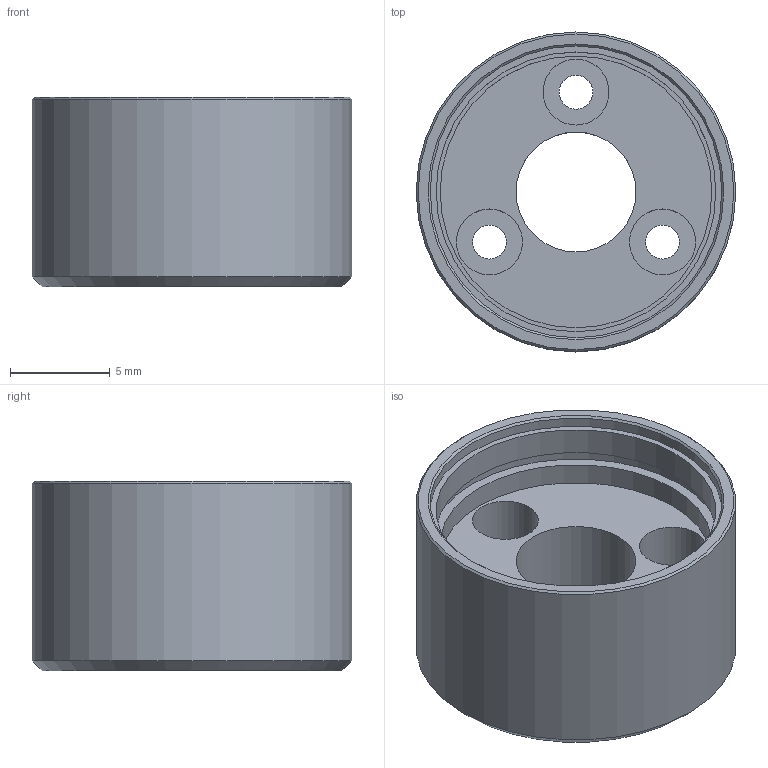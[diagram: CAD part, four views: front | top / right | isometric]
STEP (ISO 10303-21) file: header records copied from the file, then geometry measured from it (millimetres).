
FILE_DESCRIPTION(/* description */ (''),/* implementation_level */ '2;1');
FILE_NAME(/* name */ '16-7_flange_a.stp',/* time_stamp */ '2016-09-09T15:21:21+02:00',/* author */ ('DR. FRITZ FAULHABER GmbH & Co. KG'),/* organization */ ('DR. FRITZ FAULHABER GmbH & Co. KG'),/* preprocessor_version */ 'ST-DEVELOPER v16',/* originating_system */ 'SIEMENS PLM Software NX 10.0',/* authorisation */ '');
FILE_SCHEMA (('AUTOMOTIVE_DESIGN { 1 0 10303 214 3 1 1 1 }'));
Length unit declared in the file: millimetre
Products named in the file (1): F0200011243_G
Bounding box: 16 x 16 x 9.5 mm (x, y, z)
Volume: 1074.4 mm3; surface area: 1218.7 mm2
Topology: 1 solids, 1 shells, 25 faces, 51 edges, 36 vertices
Faces by surface type: cylinder 12, plane 9, cone 4
Full cylindrical faces by diameter (mm): 1.7 x3, 3.3 x3, 6 x1, 13.6 x1, 14 x1, 14.6 x2, 16 x1
Entity records: 603 total; most frequent: DIRECTION 112, CARTESIAN_POINT 85, FACE_BOUND 56, EDGE_LOOP 56, ORIENTED_EDGE 56, AXIS2_PLACEMENT_3D 56, CIRCLE 30, VERTEX_POINT 28
